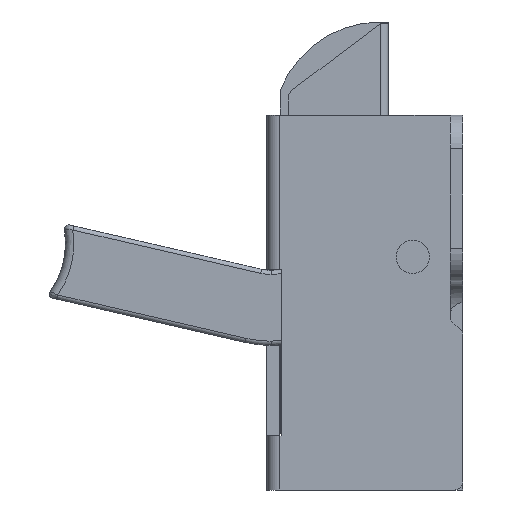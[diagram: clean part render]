
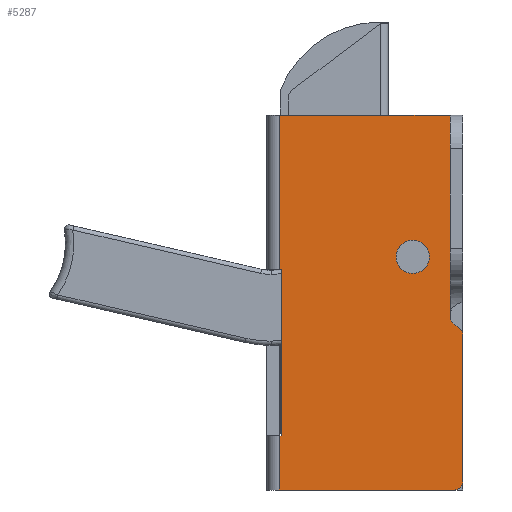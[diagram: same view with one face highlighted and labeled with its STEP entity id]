
A CAD part, left-side view. The second image highlights one B-rep face of the part: STEP entity #5287.
In plain terms, the highlighted planar face has unit normal (-1, 0, 0).
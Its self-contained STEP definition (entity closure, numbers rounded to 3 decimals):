
#10 = ORIENTED_EDGE ( 'NONE', *, *, #1573, .F. ) ;
#12 = ORIENTED_EDGE ( 'NONE', *, *, #1610, .T. ) ;
#714 = LINE ( 'NONE', #6101, #716 ) ;
#716 = VECTOR ( 'NONE', #6102, 1000. ) ;
#774 = CIRCLE ( 'NONE', #5090, 1.5 ) ;
#778 = CIRCLE ( 'NONE', #5088, 2. ) ;
#780 = CIRCLE ( 'NONE', #5089, 1. ) ;
#782 = LINE ( 'NONE', #6169, #784 ) ;
#783 = LINE ( 'NONE', #6192, #786 ) ;
#784 = VECTOR ( 'NONE', #6182, 1000. ) ;
#785 = LINE ( 'NONE', #6194, #788 ) ;
#786 = VECTOR ( 'NONE', #6193, 1000. ) ;
#787 = LINE ( 'NONE', #6196, #790 ) ;
#788 = VECTOR ( 'NONE', #6195, 1000. ) ;
#789 = LINE ( 'NONE', #6198, #792 ) ;
#790 = VECTOR ( 'NONE', #6197, 1000. ) ;
#791 = LINE ( 'NONE', #6200, #794 ) ;
#792 = VECTOR ( 'NONE', #6199, 1000. ) ;
#793 = LINE ( 'NONE', #6202, #796 ) ;
#794 = VECTOR ( 'NONE', #6201, 1000. ) ;
#795 = CIRCLE ( 'NONE', #5091, 1. ) ;
#796 = VECTOR ( 'NONE', #6203, 1000. ) ;
#918 = CIRCLE ( 'NONE', #6266, 2. ) ;
#983 = LINE ( 'NONE', #4125, #999 ) ;
#999 = VECTOR ( 'NONE', #4131, 1000. ) ;
#1058 = FACE_OUTER_BOUND ( 'NONE', #1703, .T. ) ;
#1065 = FACE_BOUND ( 'NONE', #3685, .T. ) ;
#1573 = EDGE_CURVE ( 'NONE', #4385, #4386, #714, .T. ) ;
#1607 = EDGE_CURVE ( 'NONE', #4514, #4515, #778, .T. ) ;
#1608 = EDGE_CURVE ( 'NONE', #4465, #4351, #780, .T. ) ;
#1609 = EDGE_CURVE ( 'NONE', #4351, #4352, #774, .T. ) ;
#1610 = EDGE_CURVE ( 'NONE', #4352, #4386, #782, .T. ) ;
#1611 = EDGE_CURVE ( 'NONE', #4385, #4345, #783, .T. ) ;
#1612 = EDGE_CURVE ( 'NONE', #4353, #4345, #785, .T. ) ;
#1613 = EDGE_CURVE ( 'NONE', #4371, #4353, #787, .T. ) ;
#1614 = EDGE_CURVE ( 'NONE', #4371, #4356, #789, .T. ) ;
#1615 = EDGE_CURVE ( 'NONE', #4356, #4325, #791, .T. ) ;
#1616 = EDGE_CURVE ( 'NONE', #4325, #4326, #793, .T. ) ;
#1617 = EDGE_CURVE ( 'NONE', #4326, #4466, #795, .T. ) ;
#1703 = EDGE_LOOP ( 'NONE', ( #6418, #6428, #6407, #12, #10, #6429, #6425, #6438, #6424, #6417, #6419, #6430 ) ) ;
#2306 = EDGE_CURVE ( 'NONE', #4515, #4514, #918, .T. ) ;
#2357 = EDGE_CURVE ( 'NONE', #4466, #4465, #983, .T. ) ;
#2482 = CARTESIAN_POINT ( 'NONE',  ( -11., 22., -36. ) ) ;
#2483 = CARTESIAN_POINT ( 'NONE',  ( -11., 1., -36. ) ) ;
#2502 = CARTESIAN_POINT ( 'NONE',  ( -11., 22., -9.5 ) ) ;
#2508 = CARTESIAN_POINT ( 'NONE',  ( -11., 0.6, -16.375 ) ) ;
#2509 = CARTESIAN_POINT ( 'NONE',  ( -11., 1.5, -15. ) ) ;
#2510 = CARTESIAN_POINT ( 'NONE',  ( -11., 21.8, -9.5 ) ) ;
#2513 = CARTESIAN_POINT ( 'NONE',  ( -11., 22., -29.5 ) ) ;
#2528 = CARTESIAN_POINT ( 'NONE',  ( -11., 21.8, -29.5 ) ) ;
#2541 = CARTESIAN_POINT ( 'NONE',  ( -11., 22., 9. ) ) ;
#2542 = CARTESIAN_POINT ( 'NONE',  ( -11., 1.5, 9. ) ) ;
#2621 = CARTESIAN_POINT ( 'NONE',  ( -11., 0., -17.291 ) ) ;
#2622 = CARTESIAN_POINT ( 'NONE',  ( -11., 0., -35. ) ) ;
#2669 = CARTESIAN_POINT ( 'NONE',  ( -11., 6., -10. ) ) ;
#2670 = CARTESIAN_POINT ( 'NONE',  ( -11., 6., -6. ) ) ;
#2773 = DIRECTION ( 'NONE',  ( 1., 0., 0. ) ) ;
#2776 = CARTESIAN_POINT ( 'NONE',  ( -11., 23.5, -36. ) ) ;
#2778 = PLANE ( 'NONE',  #6313 ) ;
#2780 = DIRECTION ( 'NONE',  ( 0., 0., -1. ) ) ;
#3685 = EDGE_LOOP ( 'NONE', ( #6396, #6404 ) ) ;
#4007 = CARTESIAN_POINT ( 'NONE',  ( -11., 6., -8. ) ) ;
#4008 = DIRECTION ( 'NONE',  ( -1., 0., 0. ) ) ;
#4009 = DIRECTION ( 'NONE',  ( 0., 0., -1. ) ) ;
#4125 = CARTESIAN_POINT ( 'NONE',  ( -11., 0., -36. ) ) ;
#4131 = DIRECTION ( 'NONE',  ( 0., 0., 1. ) ) ;
#4325 = VERTEX_POINT ( 'NONE', #2482 ) ;
#4326 = VERTEX_POINT ( 'NONE', #2483 ) ;
#4345 = VERTEX_POINT ( 'NONE', #2502 ) ;
#4351 = VERTEX_POINT ( 'NONE', #2508 ) ;
#4352 = VERTEX_POINT ( 'NONE', #2509 ) ;
#4353 = VERTEX_POINT ( 'NONE', #2510 ) ;
#4356 = VERTEX_POINT ( 'NONE', #2513 ) ;
#4371 = VERTEX_POINT ( 'NONE', #2528 ) ;
#4385 = VERTEX_POINT ( 'NONE', #2541 ) ;
#4386 = VERTEX_POINT ( 'NONE', #2542 ) ;
#4465 = VERTEX_POINT ( 'NONE', #2621 ) ;
#4466 = VERTEX_POINT ( 'NONE', #2622 ) ;
#4514 = VERTEX_POINT ( 'NONE', #2669 ) ;
#4515 = VERTEX_POINT ( 'NONE', #2670 ) ;
#5088 = AXIS2_PLACEMENT_3D ( 'NONE', #6179, #6180, #6181 ) ;
#5089 = AXIS2_PLACEMENT_3D ( 'NONE', #6183, #6184, #6185 ) ;
#5090 = AXIS2_PLACEMENT_3D ( 'NONE', #6188, #6189, #6190 ) ;
#5091 = AXIS2_PLACEMENT_3D ( 'NONE', #6205, #6206, #6207 ) ;
#5287 = ADVANCED_FACE ( 'NONE', ( #1065, #1058 ), #2778, .F. ) ;
#6101 = CARTESIAN_POINT ( 'NONE',  ( -11., 23.5, 9. ) ) ;
#6102 = DIRECTION ( 'NONE',  ( 0., -1., 0. ) ) ;
#6169 = CARTESIAN_POINT ( 'NONE',  ( -11., 1.5, -36. ) ) ;
#6179 = CARTESIAN_POINT ( 'NONE',  ( -11., 6., -8. ) ) ;
#6180 = DIRECTION ( 'NONE',  ( -1., 0., 0. ) ) ;
#6181 = DIRECTION ( 'NONE',  ( 0., 0., -1. ) ) ;
#6182 = DIRECTION ( 'NONE',  ( 0., 0., 1. ) ) ;
#6183 = CARTESIAN_POINT ( 'NONE',  ( -11., 1., -17.291 ) ) ;
#6184 = DIRECTION ( 'NONE',  ( -1., 0., 0. ) ) ;
#6185 = DIRECTION ( 'NONE',  ( 0., 0., -1. ) ) ;
#6188 = CARTESIAN_POINT ( 'NONE',  ( -11., 0., -15. ) ) ;
#6189 = DIRECTION ( 'NONE',  ( 1., 0., 0. ) ) ;
#6190 = DIRECTION ( 'NONE',  ( 0., 0., -1. ) ) ;
#6192 = CARTESIAN_POINT ( 'NONE',  ( -11., 22., -9.5 ) ) ;
#6193 = DIRECTION ( 'NONE',  ( 0., 0., -1. ) ) ;
#6194 = CARTESIAN_POINT ( 'NONE',  ( -11., 21.8, -9.5 ) ) ;
#6195 = DIRECTION ( 'NONE',  ( 0., 1., 0. ) ) ;
#6196 = CARTESIAN_POINT ( 'NONE',  ( -11., 21.8, -9.5 ) ) ;
#6197 = DIRECTION ( 'NONE',  ( 0., 0., 1. ) ) ;
#6198 = CARTESIAN_POINT ( 'NONE',  ( -11., 21.8, -29.5 ) ) ;
#6199 = DIRECTION ( 'NONE',  ( 0., 1., 0. ) ) ;
#6200 = CARTESIAN_POINT ( 'NONE',  ( -11., 22., -36. ) ) ;
#6201 = DIRECTION ( 'NONE',  ( 0., 0., -1. ) ) ;
#6202 = CARTESIAN_POINT ( 'NONE',  ( -11., 23.5, -36. ) ) ;
#6203 = DIRECTION ( 'NONE',  ( 0., -1., 0. ) ) ;
#6205 = CARTESIAN_POINT ( 'NONE',  ( -11., 1., -35. ) ) ;
#6206 = DIRECTION ( 'NONE',  ( -1., 0., 0. ) ) ;
#6207 = DIRECTION ( 'NONE',  ( 0., 0., -1. ) ) ;
#6266 = AXIS2_PLACEMENT_3D ( 'NONE', #4007, #4008, #4009 ) ;
#6313 = AXIS2_PLACEMENT_3D ( 'NONE', #2776, #2773, #2780 ) ;
#6396 = ORIENTED_EDGE ( 'NONE', *, *, #1607, .F. ) ;
#6404 = ORIENTED_EDGE ( 'NONE', *, *, #2306, .F. ) ;
#6407 = ORIENTED_EDGE ( 'NONE', *, *, #1609, .T. ) ;
#6417 = ORIENTED_EDGE ( 'NONE', *, *, #1615, .T. ) ;
#6418 = ORIENTED_EDGE ( 'NONE', *, *, #2357, .T. ) ;
#6419 = ORIENTED_EDGE ( 'NONE', *, *, #1616, .T. ) ;
#6424 = ORIENTED_EDGE ( 'NONE', *, *, #1614, .T. ) ;
#6425 = ORIENTED_EDGE ( 'NONE', *, *, #1612, .F. ) ;
#6428 = ORIENTED_EDGE ( 'NONE', *, *, #1608, .T. ) ;
#6429 = ORIENTED_EDGE ( 'NONE', *, *, #1611, .T. ) ;
#6430 = ORIENTED_EDGE ( 'NONE', *, *, #1617, .T. ) ;
#6438 = ORIENTED_EDGE ( 'NONE', *, *, #1613, .F. ) ;
